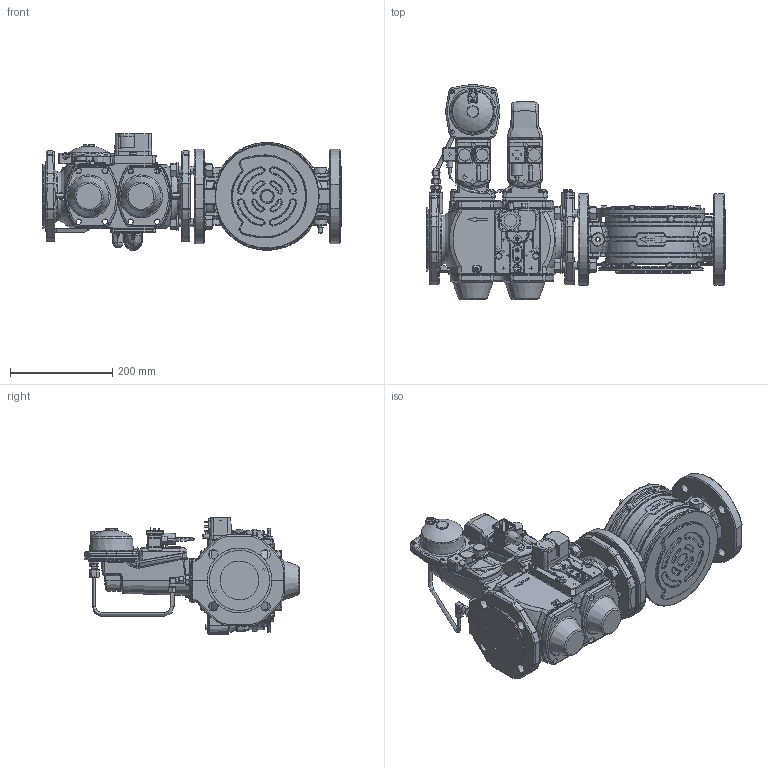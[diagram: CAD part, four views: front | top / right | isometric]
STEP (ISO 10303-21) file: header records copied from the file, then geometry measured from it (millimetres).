
FILE_DESCRIPTION (( 'STEP AP214' ), '1' );
FILE_NAME ('19990588.STEP', '2021-04-06T09:04:49', ( '' ), ( '' ), 'SwSTEP 2.0', 'SolidWorks 2018', '' );
FILE_SCHEMA (( 'AUTOMOTIVE_DESIGN' ));
Length unit declared in the file: millimetre
Products named in the file (1): 19990588
Bounding box: 584 x 420.8 x 228.41 mm (x, y, z)
Surface area: 883152.4 mm2 (no closed solid volume)
Topology: 0 solids, 138 shells, 3863 faces, 12221 edges, 8114 vertices
Faces by surface type: bspline 1444, cylinder 1001, plane 964, torus 246, cone 174, sphere 34
Full cylindrical faces by diameter (mm): 1.5 x2, 3 x1, 3.4 x1, 4.3 x6, 5 x1, 5.5 x2, 6 x2, 6.4 x4, 6.5 x1, 7 x1, 8 x5, 8.5 x5, 9 x10, 10 x8, 11.5 x1, 11.55 x1, 12 x3, 13 x2, 14 x3, 15 x1, 16 x10, 16.2 x4, 17.8 x1, 18 x8, 18.5 x3, 19 x5, 22 x1, 22.5 x3, 24.5 x3, 26 x5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
Entity records: 275454 total; most frequent: CARTESIAN_POINT 143379, ORIENTED_EDGE 19021, DIRECTION 14945, EDGE_CURVE 11712, VERTEX_POINT 7970, AXIS2_PLACEMENT_3D 5718, B_SPLINE_CURVE_WITH_KNOTS 4530, EDGE_LOOP 4453
